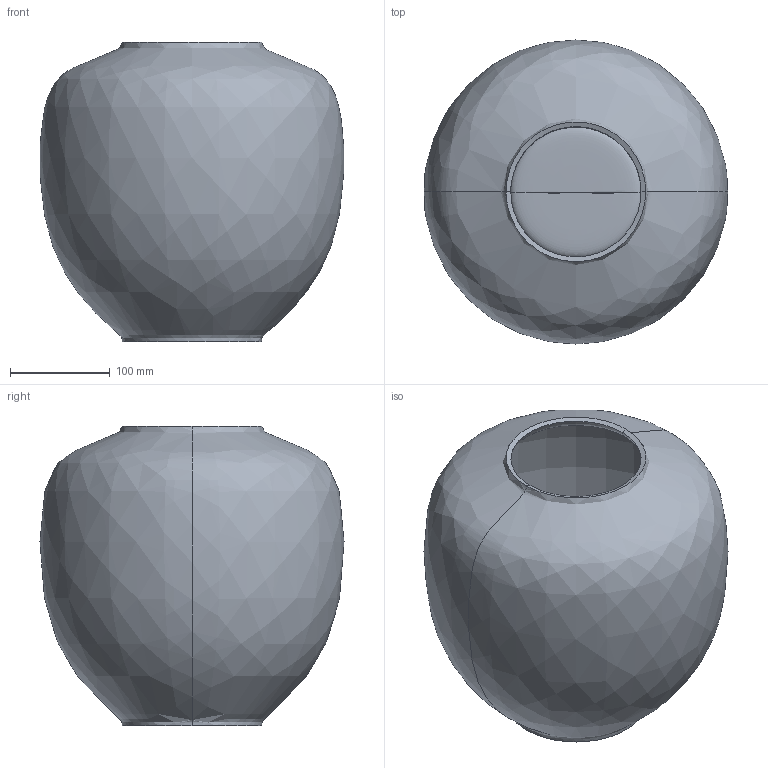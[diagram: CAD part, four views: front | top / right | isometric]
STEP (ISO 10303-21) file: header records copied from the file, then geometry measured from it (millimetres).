
FILE_DESCRIPTION(/* description */ (''),/* implementation_level */ '2;1');
FILE_NAME(/* name */ 'Sunao Vase Medio',/* time_stamp */ '2024-05-13T12:43:40+02:00',/* author */ (''),/* organization */ (''),/* preprocessor_version */ 'ST-DEVELOPER v16.5',/* originating_system */ 'Rhino 7.36',/* authorisation */ '');
FILE_SCHEMA (('CONFIG_CONTROL_DESIGN'));
Length unit declared in the file: millimetre
Products named in the file (1): Document
Bounding box: 304.13 x 304.94 x 300 mm (x, y, z)
Volume: 1540491 mm3; surface area: 596385.5 mm2
Topology: 1 solids, 1 shells, 14 faces, 35 edges, 22 vertices
Faces by surface type: bspline 14
Entity records: 9239 total; most frequent: CARTESIAN_POINT 8791, B_SPLINE_CURVE_WITH_KNOTS 68, ORIENTED_EDGE 56, PCURVE 56, DEFINITIONAL_REPRESENTATION 56, SURFACE_CURVE 28, EDGE_CURVE 28, VERTEX_POINT 16
